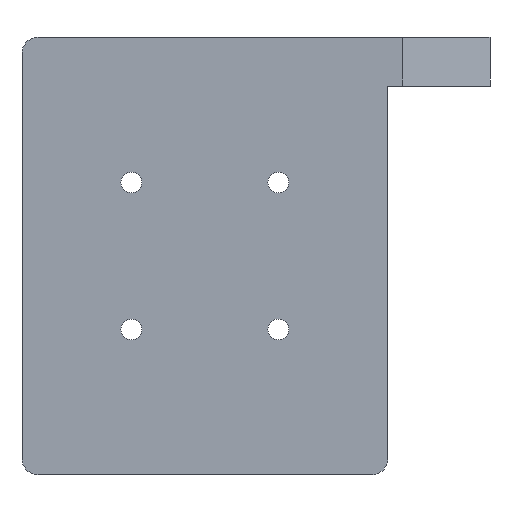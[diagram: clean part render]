
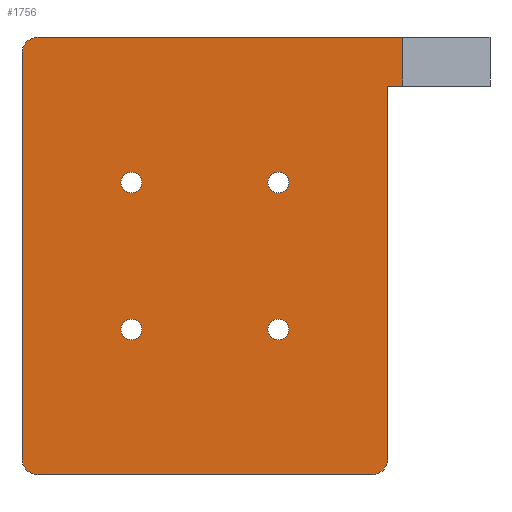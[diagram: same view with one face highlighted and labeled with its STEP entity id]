
A CAD part, front view. The second image highlights one B-rep face of the part: STEP entity #1756.
In plain terms, the highlighted planar face has unit normal (0, -1, 0).
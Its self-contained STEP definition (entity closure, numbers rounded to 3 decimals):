
#28=FACE_BOUND('',#340,.T.);
#29=FACE_BOUND('',#341,.T.);
#30=FACE_BOUND('',#342,.T.);
#31=FACE_BOUND('',#343,.T.);
#140=CIRCLE('',#1890,2.5);
#141=CIRCLE('',#1892,2.5);
#142=CIRCLE('',#1893,2.5);
#143=CIRCLE('',#1894,1.6);
#144=CIRCLE('',#1895,1.6);
#145=CIRCLE('',#1896,1.6);
#146=CIRCLE('',#1897,1.6);
#226=FACE_OUTER_BOUND('',#339,.T.);
#339=EDGE_LOOP('',(#1373,#1374,#1375,#1376,#1377,#1378,#1379,#1380,#1381));
#340=EDGE_LOOP('',(#1382));
#341=EDGE_LOOP('',(#1383));
#342=EDGE_LOOP('',(#1384));
#343=EDGE_LOOP('',(#1385));
#447=LINE('',#2575,#605);
#515=LINE('',#3014,#673);
#516=LINE('',#3018,#674);
#517=LINE('',#3021,#675);
#518=LINE('',#3023,#676);
#519=LINE('',#3024,#677);
#605=VECTOR('',#2041,10.);
#673=VECTOR('',#2241,10.);
#674=VECTOR('',#2244,10.);
#675=VECTOR('',#2247,10.);
#676=VECTOR('',#2248,10.);
#677=VECTOR('',#2249,10.);
#760=VERTEX_POINT('',#2572);
#761=VERTEX_POINT('',#2574);
#837=VERTEX_POINT('',#3007);
#838=VERTEX_POINT('',#3009);
#839=VERTEX_POINT('',#3013);
#840=VERTEX_POINT('',#3015);
#841=VERTEX_POINT('',#3017);
#842=VERTEX_POINT('',#3019);
#843=VERTEX_POINT('',#3022);
#844=VERTEX_POINT('',#3025);
#845=VERTEX_POINT('',#3027);
#846=VERTEX_POINT('',#3029);
#847=VERTEX_POINT('',#3031);
#934=EDGE_CURVE('',#760,#761,#447,.T.);
#1037=EDGE_CURVE('',#837,#838,#140,.T.);
#1039=EDGE_CURVE('',#839,#837,#515,.T.);
#1040=EDGE_CURVE('',#840,#839,#141,.T.);
#1041=EDGE_CURVE('',#841,#840,#516,.T.);
#1042=EDGE_CURVE('',#842,#841,#142,.T.);
#1043=EDGE_CURVE('',#761,#842,#517,.T.);
#1044=EDGE_CURVE('',#843,#760,#518,.T.);
#1045=EDGE_CURVE('',#838,#843,#519,.T.);
#1046=EDGE_CURVE('',#844,#844,#143,.T.);
#1047=EDGE_CURVE('',#845,#845,#144,.T.);
#1048=EDGE_CURVE('',#846,#846,#145,.T.);
#1049=EDGE_CURVE('',#847,#847,#146,.T.);
#1373=ORIENTED_EDGE('',*,*,#1037,.F.);
#1374=ORIENTED_EDGE('',*,*,#1039,.F.);
#1375=ORIENTED_EDGE('',*,*,#1040,.F.);
#1376=ORIENTED_EDGE('',*,*,#1041,.F.);
#1377=ORIENTED_EDGE('',*,*,#1042,.F.);
#1378=ORIENTED_EDGE('',*,*,#1043,.F.);
#1379=ORIENTED_EDGE('',*,*,#934,.F.);
#1380=ORIENTED_EDGE('',*,*,#1044,.F.);
#1381=ORIENTED_EDGE('',*,*,#1045,.F.);
#1382=ORIENTED_EDGE('',*,*,#1046,.F.);
#1383=ORIENTED_EDGE('',*,*,#1047,.F.);
#1384=ORIENTED_EDGE('',*,*,#1048,.F.);
#1385=ORIENTED_EDGE('',*,*,#1049,.F.);
#1685=PLANE('',#1891);
#1756=ADVANCED_FACE('',(#226,#28,#29,#30,#31),#1685,.F.);
#1890=AXIS2_PLACEMENT_3D('',#3010,#2236,#2237);
#1891=AXIS2_PLACEMENT_3D('',#3012,#2239,#2240);
#1892=AXIS2_PLACEMENT_3D('',#3016,#2242,#2243);
#1893=AXIS2_PLACEMENT_3D('',#3020,#2245,#2246);
#1894=AXIS2_PLACEMENT_3D('',#3026,#2250,#2251);
#1895=AXIS2_PLACEMENT_3D('',#3028,#2252,#2253);
#1896=AXIS2_PLACEMENT_3D('',#3030,#2254,#2255);
#1897=AXIS2_PLACEMENT_3D('',#3032,#2256,#2257);
#2041=DIRECTION('',(-1.,0.,0.));
#2236=DIRECTION('center_axis',(0.,1.,0.));
#2237=DIRECTION('ref_axis',(-0.707,0.,0.707));
#2239=DIRECTION('center_axis',(0.,1.,0.));
#2240=DIRECTION('ref_axis',(1.,0.,0.));
#2241=DIRECTION('',(0.,0.,1.));
#2242=DIRECTION('center_axis',(0.,1.,0.));
#2243=DIRECTION('ref_axis',(-0.707,0.,-0.707));
#2244=DIRECTION('',(-1.,0.,0.));
#2245=DIRECTION('center_axis',(0.,1.,0.));
#2246=DIRECTION('ref_axis',(0.707,0.,-0.707));
#2247=DIRECTION('',(0.,0.,-1.));
#2248=DIRECTION('',(0.,0.,-1.));
#2249=DIRECTION('',(1.,0.,0.));
#2250=DIRECTION('center_axis',(0.,-1.,0.));
#2251=DIRECTION('ref_axis',(1.,0.,0.));
#2252=DIRECTION('center_axis',(0.,-1.,0.));
#2253=DIRECTION('ref_axis',(1.,0.,0.));
#2254=DIRECTION('center_axis',(0.,-1.,0.));
#2255=DIRECTION('ref_axis',(1.,0.,0.));
#2256=DIRECTION('center_axis',(0.,-1.,0.));
#2257=DIRECTION('ref_axis',(1.,0.,0.));
#2572=CARTESIAN_POINT('',(30.292,0.,26.));
#2574=CARTESIAN_POINT('',(28.,0.,26.));
#2575=CARTESIAN_POINT('',(30.292,0.,26.));
#3007=CARTESIAN_POINT('',(-28.,0.,31.));
#3009=CARTESIAN_POINT('',(-25.5,0.,33.5));
#3010=CARTESIAN_POINT('Origin',(-25.5,0.,31.));
#3012=CARTESIAN_POINT('Origin',(-22.5,0.,0.));
#3013=CARTESIAN_POINT('',(-28.,0.,-31.));
#3014=CARTESIAN_POINT('',(-28.,0.,-33.5));
#3015=CARTESIAN_POINT('',(-25.5,0.,-33.5));
#3016=CARTESIAN_POINT('Origin',(-25.5,0.,-31.));
#3017=CARTESIAN_POINT('',(25.5,0.,-33.5));
#3018=CARTESIAN_POINT('',(28.,0.,-33.5));
#3019=CARTESIAN_POINT('',(28.,0.,-31.));
#3020=CARTESIAN_POINT('Origin',(25.5,0.,-31.));
#3021=CARTESIAN_POINT('',(28.,0.,33.5));
#3022=CARTESIAN_POINT('',(30.292,0.,33.5));
#3023=CARTESIAN_POINT('',(30.292,0.,33.5));
#3024=CARTESIAN_POINT('',(-28.,0.,33.5));
#3025=CARTESIAN_POINT('',(9.65,0.,-11.25));
#3026=CARTESIAN_POINT('Origin',(11.25,0.,-11.25));
#3027=CARTESIAN_POINT('',(-12.85,0.,-11.25));
#3028=CARTESIAN_POINT('Origin',(-11.25,0.,-11.25));
#3029=CARTESIAN_POINT('',(9.65,0.,11.25));
#3030=CARTESIAN_POINT('Origin',(11.25,0.,11.25));
#3031=CARTESIAN_POINT('',(-12.85,0.,11.25));
#3032=CARTESIAN_POINT('Origin',(-11.25,0.,11.25));
